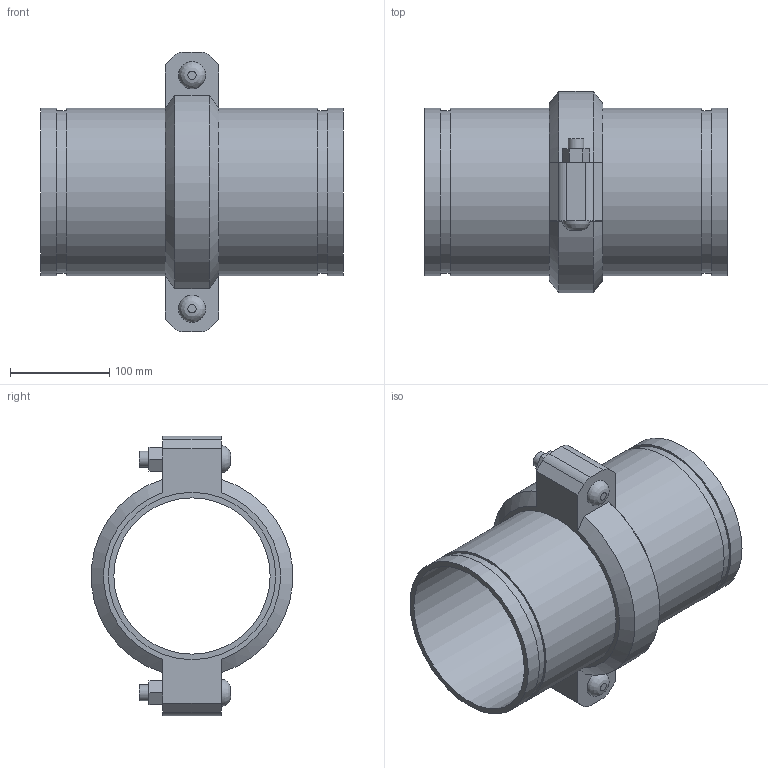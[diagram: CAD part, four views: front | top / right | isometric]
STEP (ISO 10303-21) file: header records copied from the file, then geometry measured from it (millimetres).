
FILE_DESCRIPTION(/* description */ ('VIC EXPANSION JOINT 1 COUPLING COMPRESSED STYLE 155 (OGS)','CAx-IF Rec.Pracs.---Representation and Presentation of Product Manufacturing Information (PMI)---4.0---2014-10-13'),/* implementation_level */ '2;1');
FILE_NAME(/* name */ 'C:\Users\kkamble\AppData\Roaming\Autodesk\ApplicationPlugins\Victaulic.Temp\A74\Victaulic_IPS_Expansion Joint_Compressed_1 Coupling_Style 155 (OGS)_6 (150).stp',/* time_stamp */ '2021-06-27T00:14:44+02:00',/* author */ ('kkamble'),/* organization */ ('Victaulic'),/* preprocessor_version */ 'ST-DEVELOPER v17.2',/* originating_system */ 'Autodesk Inventor 2019',/* authorisation */ '');
FILE_SCHEMA (('AP242_MANAGED_MODEL_BASED_3D_ENGINEERING_MIM_LF { 1 0 10303 442 1 1 4 }'));
Length unit declared in the file: inch
Products named in the file (3): 155-06.0; Nipple-06.0; 075-06.0
Assembly tree (3 placements, depth 2):
  155-06.0
    Nipple-06.0  x2
    075-06.0
Bounding box: 304.04 x 202.46 x 281.18 mm (x, y, z)
Volume: 1570289 mm3; surface area: 443170.4 mm2
Topology: 3 solids, 5 shells, 81 faces, 193 edges, 138 vertices
Faces by surface type: plane 48, cylinder 27, cone 4, bspline 2
Full cylindrical faces by diameter (mm): 15.875 x4, 17.424 x2, 157.15 x2, 161.925 x1, 163.957 x4, 168.275 x8
Entity records: 2310 total; most frequent: CARTESIAN_POINT 420, DIRECTION 369, ORIENTED_EDGE 326, EDGE_CURVE 163, AXIS2_PLACEMENT_3D 141, VERTEX_POINT 114, EDGE_LOOP 89, LINE 87
